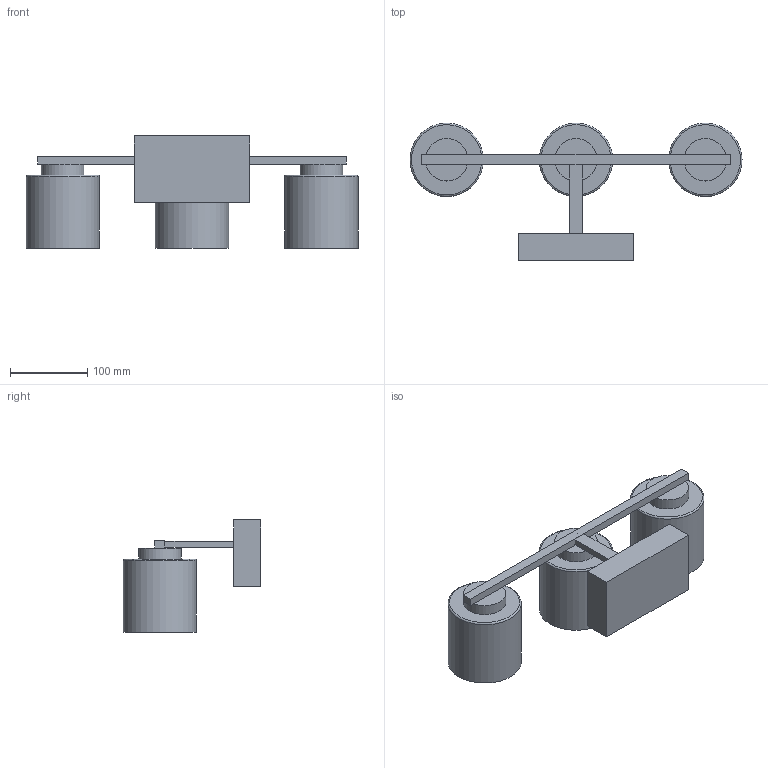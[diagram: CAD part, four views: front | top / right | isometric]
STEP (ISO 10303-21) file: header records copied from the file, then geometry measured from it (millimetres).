
FILE_DESCRIPTION(('Open CASCADE Model'),'2;1');
FILE_NAME('Open CASCADE Shape Model','2026-09-10T18:50:16',('Author'),( 'Open CASCADE'),'Open CASCADE STEP processor 7.9','Open CASCADE 7.9' ,'Unknown');
FILE_SCHEMA(('AUTOMOTIVE_DESIGN { 1 0 10303 214 1 1 1 1 }'));
Length unit declared in the file: millimetre
Products named in the file (130): CAN2340C-W3_CATALOG_PHOTO_REFERENCE; backplate; central_arm; crossbar; cap_0; reflector_top_0; reflector_bottom_0; glass_outer_0; glass_inner_0; led_recessed_0; crystal_0_0; crystal_0_1; crystal_0_2; crystal_0_3; crystal_0_4; crystal_0_5; crystal_0_6; crystal_0_7; crystal_0_8; crystal_0_9; crystal_0_10; crystal_0_11; link_bottom_0_0; link_top_0_0; link_bottom_0_1; link_top_0_1; link_bottom_0_2; link_top_0_2; link_bottom_0_3; link_top_0_3; link_bottom_0_4; link_top_0_4; link_bottom_0_5; link_top_0_5; link_bottom_0_6; link_top_0_6; link_bottom_0_7; link_top_0_7; link_bottom_0_8; link_top_0_8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
Assembly tree (129 placements, depth 2):
  CAN2340C-W3_CATALOG_PHOTO_REFERENCE
    backplate
    central_arm
    crossbar
    cap_0
    reflector_top_0
    reflector_bottom_0
    glass_outer_0
    glass_inner_0
    led_recessed_0
    crystal_0_0
    crystal_0_1
    crystal_0_2
    crystal_0_3
    crystal_0_4
    crystal_0_5
    crystal_0_6
    crystal_0_7
    crystal_0_8
    crystal_0_9
    crystal_0_10
    crystal_0_11
    link_bottom_0_0
    link_top_0_0
    link_bottom_0_1
    link_top_0_1
    link_bottom_0_2
    link_top_0_2
    link_bottom_0_3
    link_top_0_3
    link_bottom_0_4
    link_top_0_4
    link_bottom_0_5
    link_top_0_5
    link_bottom_0_6
    link_top_0_6
    link_bottom_0_7
    link_top_0_7
    link_bottom_0_8
    link_top_0_8
    link_bottom_0_9
    link_top_0_9
    link_bottom_0_10
    link_top_0_10
    link_bottom_0_11
    link_top_0_11
    cap_1
    reflector_top_1
    reflector_bottom_1
    glass_outer_1
    glass_inner_1
    led_recessed_1
    crystal_1_0
    crystal_1_1
    crystal_1_2
    crystal_1_3
    crystal_1_4
    crystal_1_5
    crystal_1_6
    crystal_1_7
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Bounding box: 429 x 178 x 145 mm (x, y, z)
Volume: 1232717.8 mm3; surface area: 513685.5 mm2
Topology: 129 solids, 129 shells, 1698 faces, 4410 edges, 2766 vertices
Faces by surface type: plane 1002, bspline 432, cylinder 177, torus 78, cone 9
Full cylindrical faces by diameter (mm): 2.594 x72, 3.592 x72, 13.768 x3, 39.907 x6, 40.306 x3, 50.881 x3, 54.872 x6, 59.86 x6, 89.802 x3, 94.802 x3
Entity records: 195431 total; most frequent: CARTESIAN_POINT 109462, DIRECTION 13145, LINE 9090, VECTOR 9090, ORIENTED_EDGE 8820, PCURVE 8820, DEFINITIONAL_REPRESENTATION 8820, EDGE_CURVE 4410
